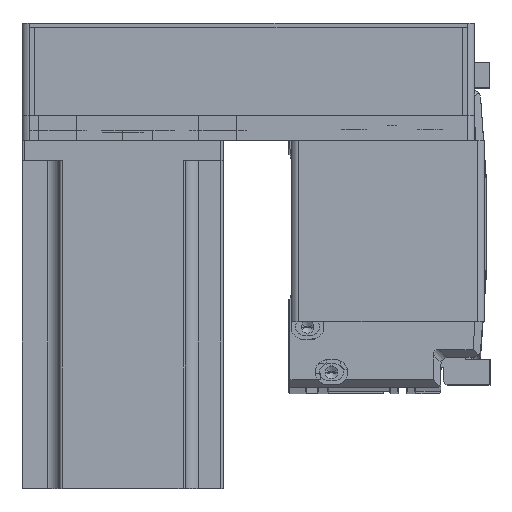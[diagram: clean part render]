
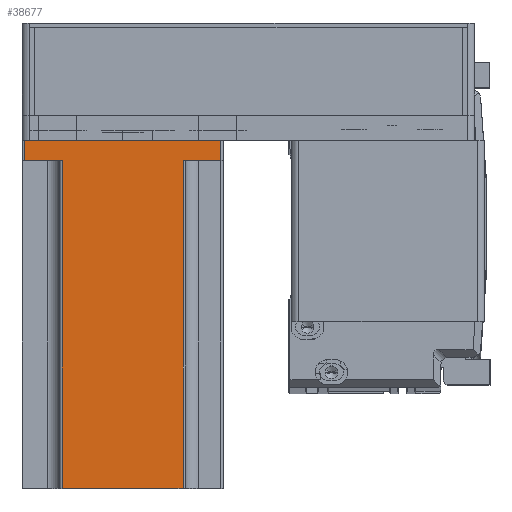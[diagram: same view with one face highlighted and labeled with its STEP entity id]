
A CAD part, top view. The second image highlights one B-rep face of the part: STEP entity #38677.
In plain terms, the highlighted planar face has unit normal (0, 0, 1) as drawn and (0, 1, 0) by its records, which use the part's own axes.
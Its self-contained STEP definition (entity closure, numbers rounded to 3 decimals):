
#440 = DIRECTION ( 'NONE',  ( -1., 0., 0. ) ) ;
#997 = VERTEX_POINT ( 'NONE', #38420 ) ;
#2045 = DIRECTION ( 'NONE',  ( 0., 0., -1. ) ) ;
#2690 = LINE ( 'NONE', #26768, #4010 ) ;
#2988 = VECTOR ( 'NONE', #6180, 1000. ) ;
#4010 = VECTOR ( 'NONE', #51867, 1000. ) ;
#4235 = VERTEX_POINT ( 'NONE', #44580 ) ;
#5958 = ORIENTED_EDGE ( 'NONE', *, *, #50010, .T. ) ;
#6180 = DIRECTION ( 'NONE',  ( -1., 0., 0. ) ) ;
#6733 = VERTEX_POINT ( 'NONE', #15609 ) ;
#8811 = ORIENTED_EDGE ( 'NONE', *, *, #53864, .T. ) ;
#11356 = EDGE_CURVE ( 'NONE', #6733, #50327, #25298, .T. ) ;
#12714 = EDGE_CURVE ( 'NONE', #50327, #997, #17336, .T. ) ;
#13803 = ORIENTED_EDGE ( 'NONE', *, *, #29082, .T. ) ;
#15609 = CARTESIAN_POINT ( 'NONE',  ( 39., 40., 0. ) ) ;
#16088 = ORIENTED_EDGE ( 'NONE', *, *, #27032, .T. ) ;
#17097 = LINE ( 'NONE', #51697, #26925 ) ;
#17312 = CARTESIAN_POINT ( 'NONE',  ( 40., 40., 138.3 ) ) ;
#17336 = LINE ( 'NONE', #19493, #38324 ) ;
#19045 = EDGE_LOOP ( 'NONE', ( #8811, #13803, #30579, #5958, #28368, #16088, #46455, #44355 ) ) ;
#19493 = CARTESIAN_POINT ( 'NONE',  ( -39., 40., 138.3 ) ) ;
#21224 = CARTESIAN_POINT ( 'NONE',  ( -24., 40., 138.3 ) ) ;
#21310 = PLANE ( 'NONE',  #39152 ) ;
#21488 = DIRECTION ( 'NONE',  ( 1., 0., 0. ) ) ;
#23367 = VECTOR ( 'NONE', #42495, 1000. ) ;
#23376 = DIRECTION ( 'NONE',  ( -1., 0., 0. ) ) ;
#25298 = LINE ( 'NONE', #25480, #46304 ) ;
#25480 = CARTESIAN_POINT ( 'NONE',  ( 40., 40., 0. ) ) ;
#25608 = CARTESIAN_POINT ( 'NONE',  ( -39., 40., 0. ) ) ;
#26768 = CARTESIAN_POINT ( 'NONE',  ( 39., 40., 138.3 ) ) ;
#26925 = VECTOR ( 'NONE', #26960, 1000. ) ;
#26960 = DIRECTION ( 'NONE',  ( 1., 0., 0. ) ) ;
#27032 = EDGE_CURVE ( 'NONE', #38947, #6733, #2690, .T. ) ;
#27045 = CARTESIAN_POINT ( 'NONE',  ( 40., 40., 138.3 ) ) ;
#27397 = LINE ( 'NONE', #52216, #37238 ) ;
#28368 = ORIENTED_EDGE ( 'NONE', *, *, #35714, .F. ) ;
#28619 = VECTOR ( 'NONE', #23376, 1000. ) ;
#29082 = EDGE_CURVE ( 'NONE', #4235, #39532, #34520, .T. ) ;
#29909 = LINE ( 'NONE', #35883, #28619 ) ;
#30579 = ORIENTED_EDGE ( 'NONE', *, *, #50940, .F. ) ;
#34520 = LINE ( 'NONE', #21224, #23367 ) ;
#35714 = EDGE_CURVE ( 'NONE', #38947, #53751, #29909, .T. ) ;
#35883 = CARTESIAN_POINT ( 'NONE',  ( 25., 40., 8. ) ) ;
#37238 = VECTOR ( 'NONE', #2045, 1000. ) ;
#38324 = VECTOR ( 'NONE', #44584, 1000. ) ;
#38387 = VERTEX_POINT ( 'NONE', #48354 ) ;
#38420 = CARTESIAN_POINT ( 'NONE',  ( -39., 40., 8. ) ) ;
#38677 = ADVANCED_FACE ( 'NONE', ( #54137 ), #21310, .F. ) ;
#38947 = VERTEX_POINT ( 'NONE', #52441 ) ;
#39152 = AXIS2_PLACEMENT_3D ( 'NONE', #17312, #46614, #21488 ) ;
#39532 = VERTEX_POINT ( 'NONE', #40166 ) ;
#40166 = CARTESIAN_POINT ( 'NONE',  ( -24., 40., 138.3 ) ) ;
#42495 = DIRECTION ( 'NONE',  ( 0., 0., 1. ) ) ;
#42721 = CARTESIAN_POINT ( 'NONE',  ( 24., 40., 8. ) ) ;
#44355 = ORIENTED_EDGE ( 'NONE', *, *, #12714, .T. ) ;
#44580 = CARTESIAN_POINT ( 'NONE',  ( -24., 40., 8. ) ) ;
#44584 = DIRECTION ( 'NONE',  ( 0., 0., 1. ) ) ;
#46304 = VECTOR ( 'NONE', #440, 1000. ) ;
#46455 = ORIENTED_EDGE ( 'NONE', *, *, #11356, .T. ) ;
#46614 = DIRECTION ( 'NONE',  ( 0., -1., 0. ) ) ;
#48354 = CARTESIAN_POINT ( 'NONE',  ( 24., 40., 138.3 ) ) ;
#48880 = LINE ( 'NONE', #27045, #2988 ) ;
#50010 = EDGE_CURVE ( 'NONE', #38387, #53751, #27397, .T. ) ;
#50327 = VERTEX_POINT ( 'NONE', #25608 ) ;
#50940 = EDGE_CURVE ( 'NONE', #38387, #39532, #48880, .T. ) ;
#51697 = CARTESIAN_POINT ( 'NONE',  ( -25., 40., 8. ) ) ;
#51867 = DIRECTION ( 'NONE',  ( 0., 0., -1. ) ) ;
#52216 = CARTESIAN_POINT ( 'NONE',  ( 24., 40., 138.3 ) ) ;
#52441 = CARTESIAN_POINT ( 'NONE',  ( 39., 40., 8. ) ) ;
#53751 = VERTEX_POINT ( 'NONE', #42721 ) ;
#53864 = EDGE_CURVE ( 'NONE', #997, #4235, #17097, .T. ) ;
#54137 = FACE_OUTER_BOUND ( 'NONE', #19045, .T. ) ;
